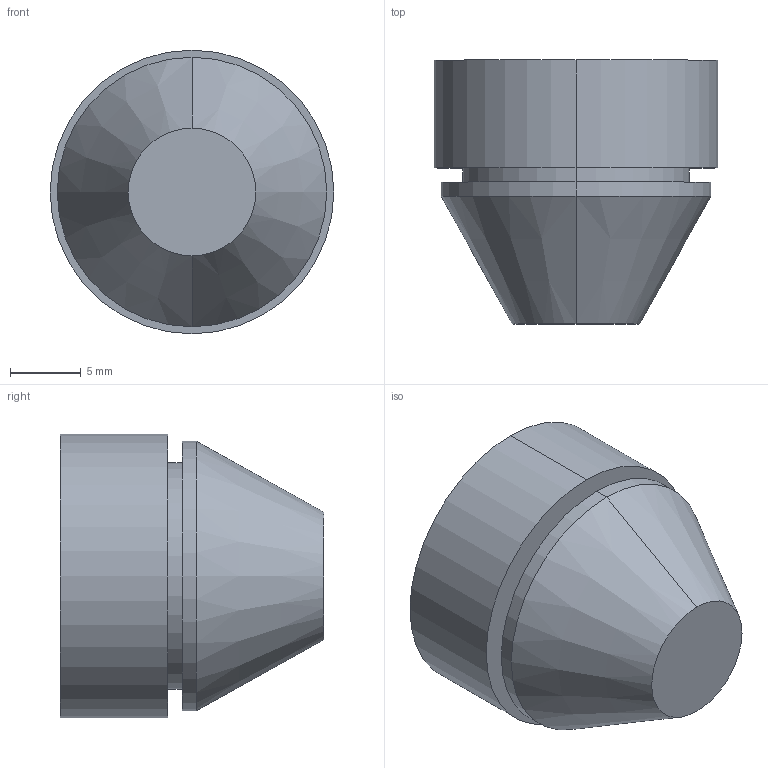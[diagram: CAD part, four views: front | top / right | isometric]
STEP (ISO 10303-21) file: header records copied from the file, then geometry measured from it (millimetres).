
FILE_DESCRIPTION (( 'STEP AP203' ), '1' );
FILE_NAME ('100308.STEP', '2012-10-29T10:45:31', ( 'Joni' ), ( 'Hewlett-Packard Company' ), 'SwSTEP 2.0', 'SolidWorks 2012', '' );
FILE_SCHEMA (( 'CONFIG_CONTROL_DESIGN' ));
Length unit declared in the file: millimetre
Products named in the file (1): 100308
Bounding box: 20 x 18.6 x 20 mm (x, y, z)
Volume: 4316.5 mm3; surface area: 1613.6 mm2
Topology: 1 solids, 1 shells, 12 faces, 22 edges, 14 vertices
Faces by surface type: cylinder 6, plane 4, cone 2
Entity records: 381 total; most frequent: DIRECTION 62, CARTESIAN_POINT 49, ORIENTED_EDGE 44, AXIS2_PLACEMENT_3D 27, EDGE_CURVE 22, VERTEX_POINT 14, CIRCLE 14, EDGE_LOOP 14
